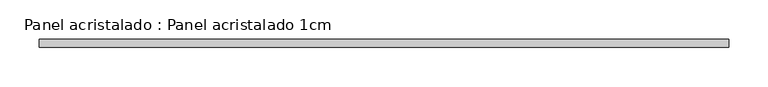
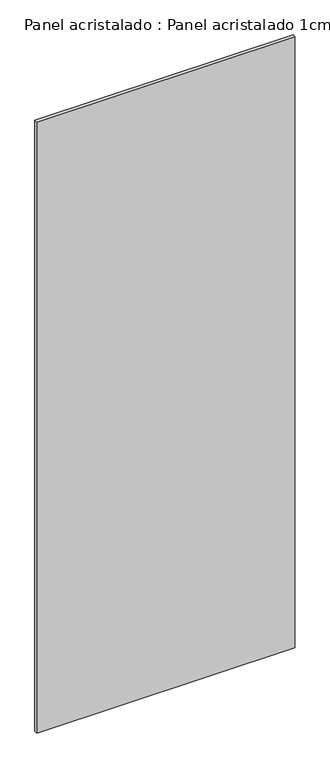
"""IFC4 building model written with IfcOpenShell, lengths in millimetres: plate geometry, Panel acristalado : Panel acristalado 1cm."""

from ifc_helpers import new_model, si_unit, origin, origin_with_axes, place, context, project, spatial, polyline, outline, extrude, source, transform, mapped, element, save


def panel_acristalado_panel_acristalado_1cm_dcff6931(model_context):
    return source(origin(), model_context, "Body", "SweptSolid", [
        extrude(outline(polyline([(440.0, 20.0), (-440.0, 20.0), (-440.0, 30.0), (440.0, 30.0), (440.0, 20.0)])), origin_with_axes(), (0.0, 0.0, 1.0), 2200.0),
    ])


if __name__ == "__main__":
    model = new_model("IFC4")
    model_context = context("Model", 3, world=origin())
    ifc_project = project(units=[si_unit("LENGTHUNIT", "METRE", prefix="MILLI")], contexts=[model_context])
    site = spatial("IfcSite", under=ifc_project)
    building = spatial("IfcBuilding", under=site)
    placement = place(None, origin())
    panel_acristalado_panel_acristalado_1cm_shape = panel_acristalado_panel_acristalado_1cm_dcff6931(model_context)
    element("IfcPlate", 1, ObjectType="Panel acristalado : Panel acristalado 1cm", at=placement, inside=building, context=model_context, shape_type="MappedRepresentation", body=[
        mapped(panel_acristalado_panel_acristalado_1cm_shape, transform((0.0, 0.0, 0.0), x_axis=(1.0, 0.0, 0.0), y_axis=(0.0, 1.0, 0.0), z_axis=(0.0, 0.0, 1.0))),
    ])
    save(model, "model.ifc")
